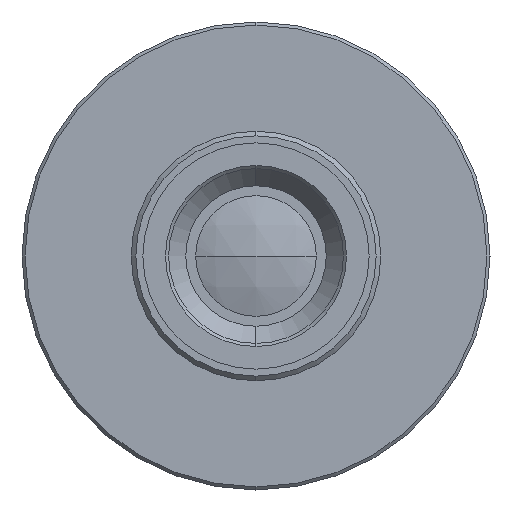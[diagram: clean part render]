
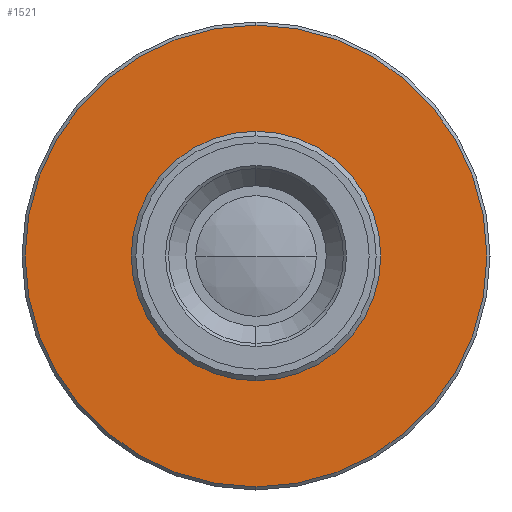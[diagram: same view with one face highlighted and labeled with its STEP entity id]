
A CAD part, left-side view. The second image highlights one B-rep face of the part: STEP entity #1521.
In plain terms, the highlighted planar face has unit normal (-1, 0, 0).
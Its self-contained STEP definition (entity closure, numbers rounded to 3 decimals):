
#32 = CIRCLE ( 'NONE', #1470, 8. ) ;
#111 = CARTESIAN_POINT ( 'NONE',  ( 281.187, -241.278, 8. ) ) ;
#139 = AXIS2_PLACEMENT_3D ( 'NONE', #534, #1947, #1068 ) ;
#166 = DIRECTION ( 'NONE',  ( 1., 0., 0. ) ) ;
#228 = CARTESIAN_POINT ( 'NONE',  ( 281.187, -241.278, 0. ) ) ;
#332 = CIRCLE ( 'NONE', #1858, 8. ) ;
#368 = EDGE_CURVE ( 'NONE', #454, #1323, #1870, .T. ) ;
#395 = ORIENTED_EDGE ( 'NONE', *, *, #2037, .T. ) ;
#454 = VERTEX_POINT ( 'NONE', #1076 ) ;
#534 = CARTESIAN_POINT ( 'NONE',  ( 281.187, -241.278, 0. ) ) ;
#579 = DIRECTION ( 'NONE',  ( 0., 0., 1. ) ) ;
#627 = ORIENTED_EDGE ( 'NONE', *, *, #368, .T. ) ;
#674 = DIRECTION ( 'NONE',  ( -1., 0., 0. ) ) ;
#688 = CARTESIAN_POINT ( 'NONE',  ( 281.187, -241.278, 0. ) ) ;
#700 = CARTESIAN_POINT ( 'NONE',  ( 281.187, -241.278, 14.8 ) ) ;
#946 = ORIENTED_EDGE ( 'NONE', *, *, #1526, .F. ) ;
#1004 = VERTEX_POINT ( 'NONE', #1019 ) ;
#1019 = CARTESIAN_POINT ( 'NONE',  ( 281.187, -241.278, -8. ) ) ;
#1068 = DIRECTION ( 'NONE',  ( 0., 0., 1. ) ) ;
#1076 = CARTESIAN_POINT ( 'NONE',  ( 281.187, -241.278, -14.8 ) ) ;
#1086 = AXIS2_PLACEMENT_3D ( 'NONE', #1221, #166, #1399 ) ;
#1203 = EDGE_CURVE ( 'NONE', #2271, #1004, #32, .T. ) ;
#1221 = CARTESIAN_POINT ( 'NONE',  ( 281.187, -233.278, 0. ) ) ;
#1294 = FACE_BOUND ( 'NONE', #1454, .T. ) ;
#1323 = VERTEX_POINT ( 'NONE', #700 ) ;
#1382 = PLANE ( 'NONE',  #1086 ) ;
#1399 = DIRECTION ( 'NONE',  ( 0., 0., -1. ) ) ;
#1429 = DIRECTION ( 'NONE',  ( -1., 0., 0. ) ) ;
#1454 = EDGE_LOOP ( 'NONE', ( #2105, #946 ) ) ;
#1463 = FACE_OUTER_BOUND ( 'NONE', #1714, .T. ) ;
#1470 = AXIS2_PLACEMENT_3D ( 'NONE', #688, #674, #1909 ) ;
#1521 = ADVANCED_FACE ( 'NONE', ( #1294, #1463 ), #1382, .F. ) ;
#1526 = EDGE_CURVE ( 'NONE', #1004, #2271, #332, .T. ) ;
#1541 = DIRECTION ( 'NONE',  ( 0., 0., 1. ) ) ;
#1650 = AXIS2_PLACEMENT_3D ( 'NONE', #228, #1429, #579 ) ;
#1714 = EDGE_LOOP ( 'NONE', ( #627, #395 ) ) ;
#1731 = DIRECTION ( 'NONE',  ( -1., 0., 0. ) ) ;
#1858 = AXIS2_PLACEMENT_3D ( 'NONE', #2255, #1731, #1541 ) ;
#1870 = CIRCLE ( 'NONE', #139, 14.8 ) ;
#1909 = DIRECTION ( 'NONE',  ( 0., 0., 1. ) ) ;
#1947 = DIRECTION ( 'NONE',  ( -1., 0., 0. ) ) ;
#1959 = CIRCLE ( 'NONE', #1650, 14.8 ) ;
#2037 = EDGE_CURVE ( 'NONE', #1323, #454, #1959, .T. ) ;
#2105 = ORIENTED_EDGE ( 'NONE', *, *, #1203, .F. ) ;
#2255 = CARTESIAN_POINT ( 'NONE',  ( 281.187, -241.278, 0. ) ) ;
#2271 = VERTEX_POINT ( 'NONE', #111 ) ;
